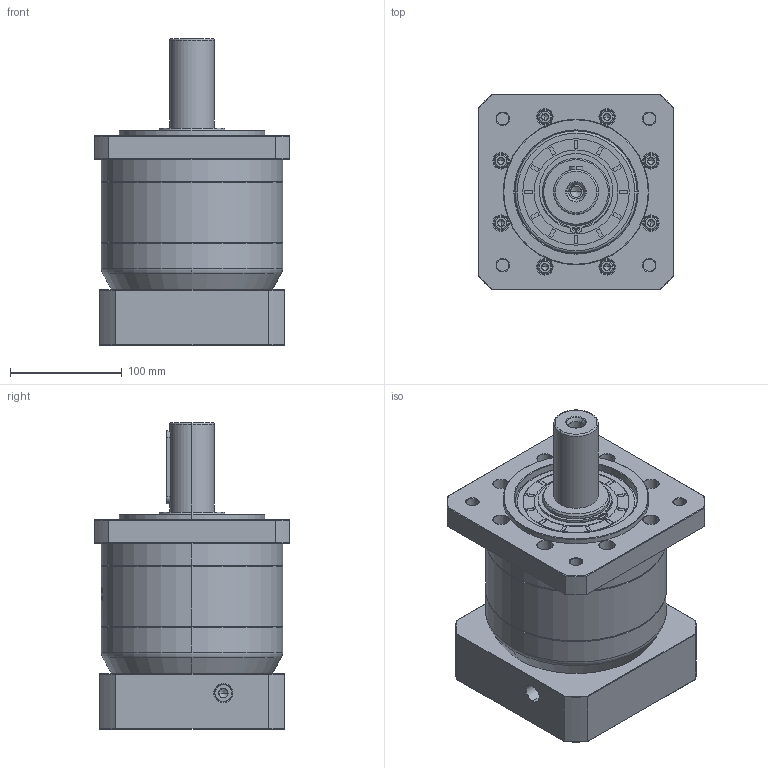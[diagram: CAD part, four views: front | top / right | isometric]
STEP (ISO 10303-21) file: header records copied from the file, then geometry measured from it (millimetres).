
FILE_DESCRIPTION (( 'STEP AP214' ), '1' );
FILE_NAME ('ZF160-D40-L1-32-130-165-M10.step', '2023-03-21T04:28:22', ( '' ), ( '' ), 'SwSTEP 2.0', 'SolidWorks 2016', '' );
FILE_SCHEMA (( 'AUTOMOTIVE_DESIGN' ));
Length unit declared in the file: millimetre
Products named in the file (1): ZF160-D40-L1-32-130-165-M10
Bounding box: 175 x 175 x 274.2 mm (x, y, z)
Volume: 4033640.2 mm3; surface area: 332710.9 mm2
Topology: 6 solids, 6 shells, 1638 faces, 4259 edges, 2725 vertices
Faces by surface type: plane 644, cylinder 426, cone 326, bspline 218, torus 24
Entity records: 93131 total; most frequent: CARTESIAN_POINT 37257, ORIENTED_EDGE 8458, DIRECTION 7159, EDGE_CURVE 4229, VERTEX_POINT 2725, AXIS2_PLACEMENT_3D 2483, LINE 2193, VECTOR 2193
